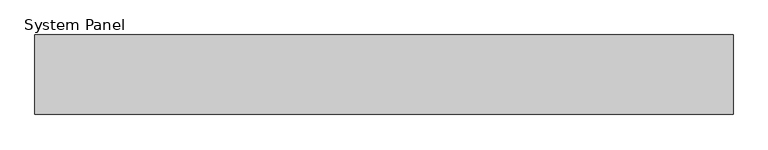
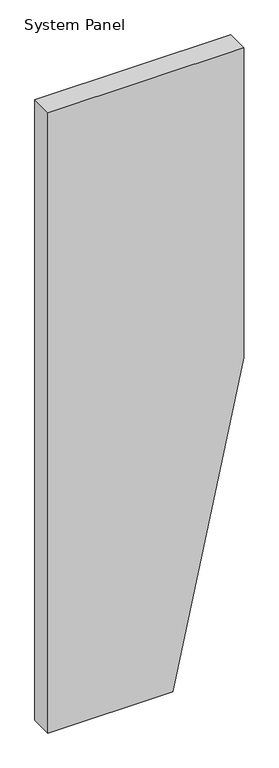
"""IFC4 building model written with IfcOpenShell, lengths in millimetres: plate geometry, System Panel : MetecnoPanel_125mm_Plain_Surfmist."""

from ifc_helpers import new_model, si_unit, frame, origin, place, context, project, spatial, polyline, outline, extrude, source, transform, mapped, element, save


def system_panel_ecdf3daf(model_context):
    return source(origin(), model_context, "Body", "SweptSolid", [
        extrude(outline(polyline([(0.0, -550.0), (0.0, 150.0), (1839.9852118, 550.0), (3679.9704237, 550.0), (3679.9704237, -550.0), (0.0, -550.0)])), frame((0.0, -125.0, 0.0), z_axis=(0.0, 1.0, 0.0), x_axis=(0.0, 0.0, 1.0)), (0.0, 0.0, 1.0), 125.0),
    ])


if __name__ == "__main__":
    model = new_model("IFC4")
    model_context = context("Model", 3, world=origin())
    ifc_project = project(units=[si_unit("LENGTHUNIT", "METRE", prefix="MILLI")], contexts=[model_context])
    site = spatial("IfcSite", under=ifc_project)
    building = spatial("IfcBuilding", under=site)
    placement = place(None, origin())
    system_panel_shape = system_panel_ecdf3daf(model_context)
    element("IfcPlate", 1, ObjectType="System Panel : MetecnoPanel_125mm_Plain_Surfmist", at=placement, inside=building, context=model_context, shape_type="MappedRepresentation", body=[
        mapped(system_panel_shape, transform((0.0, 0.0, 0.0), x_axis=(1.0, 0.0, 0.0), y_axis=(0.0, 1.0, 0.0), z_axis=(0.0, 0.0, 1.0))),
    ])
    save(model, "model.ifc")
